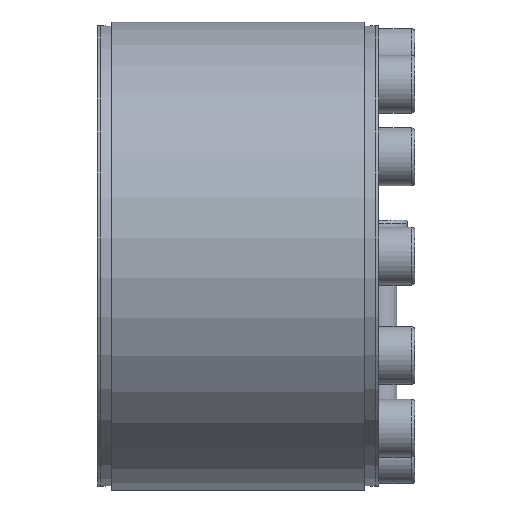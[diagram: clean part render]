
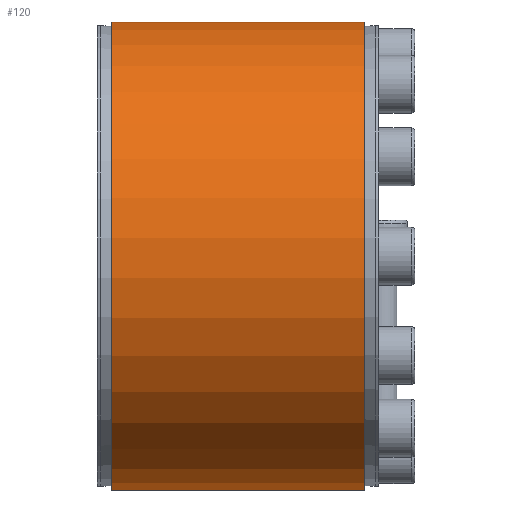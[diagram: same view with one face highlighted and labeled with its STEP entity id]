
A CAD part, left-side view. The second image highlights one B-rep face of the part: STEP entity #120.
In plain terms, the highlighted cylindrical face has radius 65 mm (diameter 130 mm), a partial arc.
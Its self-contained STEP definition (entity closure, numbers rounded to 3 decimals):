
#120 = ADVANCED_FACE( '', ( #298 ), #299, .T. );
#298 = FACE_OUTER_BOUND( '', #612, .T. );
#299 = CYLINDRICAL_SURFACE( '', #613, 65. );
#612 = EDGE_LOOP( '', ( #984, #985, #986, #987 ) );
#613 = AXIS2_PLACEMENT_3D( '', #988, #989, #990 );
#984 = ORIENTED_EDGE( '', *, *, #1486, .F. );
#985 = ORIENTED_EDGE( '', *, *, #1487, .T. );
#986 = ORIENTED_EDGE( '', *, *, #1488, .F. );
#987 = ORIENTED_EDGE( '', *, *, #1489, .F. );
#988 = CARTESIAN_POINT( '', ( 0., -60., 0. ) );
#989 = DIRECTION( '', ( 0., 1., 0. ) );
#990 = DIRECTION( '', ( 0., 0., -1. ) );
#1486 = EDGE_CURVE( '', #1766, #1767, #1768, .T. );
#1487 = EDGE_CURVE( '', #1766, #1769, #1770, .T. );
#1488 = EDGE_CURVE( '', #1771, #1769, #1772, .F. );
#1489 = EDGE_CURVE( '', #1767, #1771, #1773, .T. );
#1766 = VERTEX_POINT( '', #2207 );
#1767 = VERTEX_POINT( '', #2208 );
#1768 = LINE( '', #2209, #2210 );
#1769 = VERTEX_POINT( '', #2211 );
#1770 = CIRCLE( '', #2212, 65. );
#1771 = VERTEX_POINT( '', #2213 );
#1772 = LINE( '', #2214, #2215 );
#1773 = CIRCLE( '', #2216, 65. );
#2207 = CARTESIAN_POINT( '', ( 15.613, 74., 63.097 ) );
#2208 = CARTESIAN_POINT( '', ( 15.613, 4., 63.097 ) );
#2209 = CARTESIAN_POINT( '', ( 15.613, -60., 63.097 ) );
#2210 = VECTOR( '', #2593, 1000. );
#2211 = CARTESIAN_POINT( '', ( 18.028, 74., 62.45 ) );
#2212 = AXIS2_PLACEMENT_3D( '', #2594, #2595, #2596 );
#2213 = CARTESIAN_POINT( '', ( 18.028, 4., 62.45 ) );
#2214 = CARTESIAN_POINT( '', ( 18.028, -60., 62.45 ) );
#2215 = VECTOR( '', #2597, 1000. );
#2216 = AXIS2_PLACEMENT_3D( '', #2598, #2599, #2600 );
#2593 = DIRECTION( '', ( 0., -1., 0. ) );
#2594 = CARTESIAN_POINT( '', ( 0., 74., 0. ) );
#2595 = DIRECTION( '', ( 0., -1., 0. ) );
#2596 = DIRECTION( '', ( 0., 0., -1. ) );
#2597 = DIRECTION( '', ( 0., -1., 0. ) );
#2598 = CARTESIAN_POINT( '', ( 0., 4., 0. ) );
#2599 = DIRECTION( '', ( 0., -1., 0. ) );
#2600 = DIRECTION( '', ( 0., 0., -1. ) );
